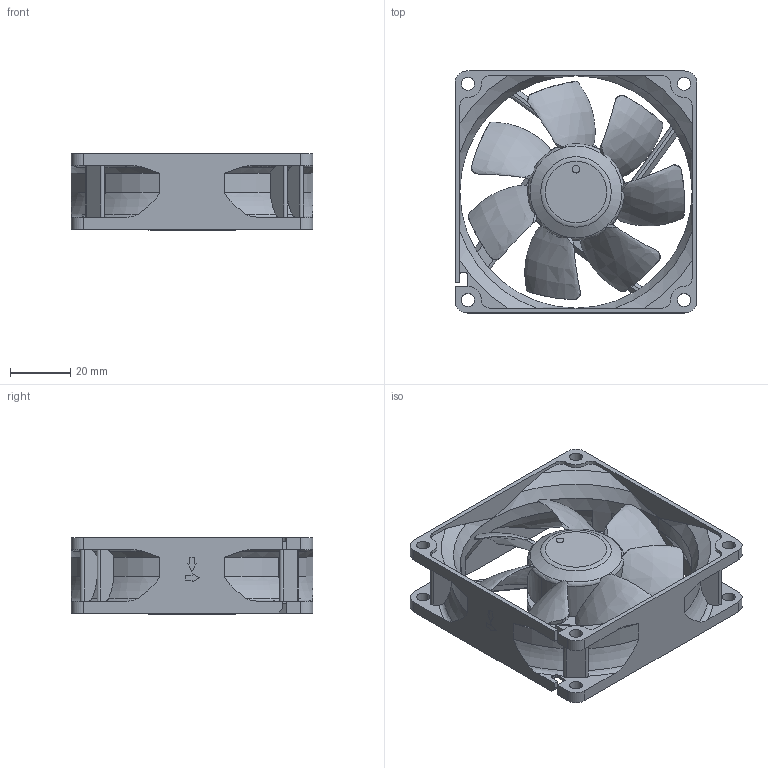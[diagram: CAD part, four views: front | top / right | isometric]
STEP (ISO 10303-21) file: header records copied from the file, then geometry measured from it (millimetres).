
FILE_DESCRIPTION(/* description */ ('140mm Desk Fan'),/* implementation_level */ '2;1');
FILE_NAME(/* name */ 'NF-R8_public-CAD',/* time_stamp */ '2026-04-10T09:19:57+02:00',/* author */ ('Andreas'),/* organization */ ('Rascom'),/* preprocessor_version */ 'ST-DEVELOPER v18.102',/* originating_system */ 'Solid Edge',/* authorisation */ 'Unknown');
FILE_SCHEMA (('AUTOMOTIVE_DESIGN {1 0 10303 214 3 1 1}'));
Length unit declared in the file: millimetre
Products named in the file (4): NF-R8_public-CAD; NF-R8-Frame-Public; NF-R8-Impeller-Public; Fan-Label-D29mm-Redux
Assembly tree (3 placements, depth 2):
  NF-R8_public-CAD
    NF-R8-Frame-Public
    NF-R8-Impeller-Public
    Fan-Label-D29mm-Redux
Bounding box: 80 x 80 x 25.4 mm (x, y, z)
Volume: 40719.2 mm3; surface area: 34037.2 mm2
Topology: 3 solids, 3 shells, 414 faces, 1200 edges, 791 vertices
Faces by surface type: plane 149, cylinder 137, torus 67, bspline 46, cone 15
Full cylindrical faces by diameter (mm): 2.5 x1, 29 x1, 31.9 x1
Entity records: 22901 total; most frequent: CARTESIAN_POINT 12259, ORIENTED_EDGE 2370, DIRECTION 1782, EDGE_CURVE 1185, VERTEX_POINT 786, AXIS2_PLACEMENT_3D 655, LINE 472, VECTOR 472
